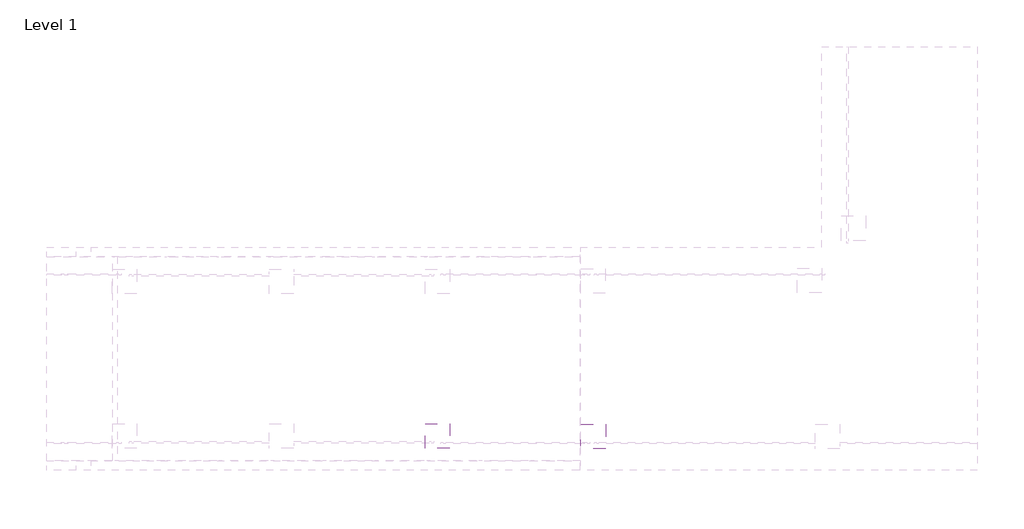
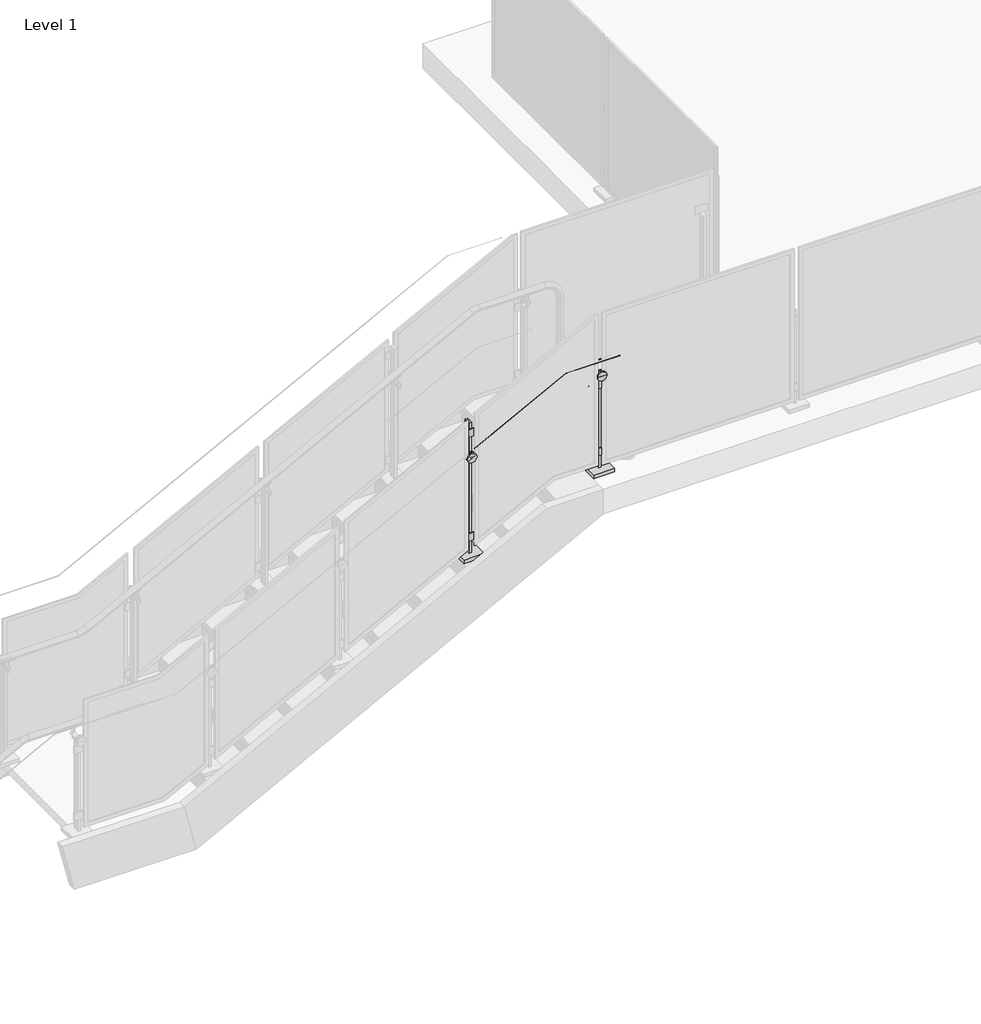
# One storey, part 12 of 28: 1 proxy, 1 railing.
"""IFC4 building model written with IfcOpenShell, lengths in millimetres."""

from ifc_helpers import new_model, si_unit, point, frame, frame_2d, origin, place, context, project, spatial, polyline, circle_curve, ellipse_curve, trimmed, segment, composite_curve, outline, extrude, transform, mapped, element, save
from ifc_brep_helpers import plane_surface, cylinder_surface, advanced_brep
from components import building_element_proxy_0a0706d1

model = new_model("IFC4")

# Units and contexts
model_context = context("Model", 3, world=origin())
ifc_project = project(units=[si_unit("LENGTHUNIT", "METRE", prefix="MILLI")], contexts=[model_context])

# Site, building, storey
site = spatial("IfcSite", under=ifc_project)
building = spatial("IfcBuilding", under=site)
storey = spatial("IfcBuildingStorey", under=building, Name="Level 1", Elevation=0.0)

# Proxy
placement = place(None, origin())
building_element_proxy_shape = building_element_proxy_0a0706d1(model_context)
element("IfcBuildingElementProxy", 1, Name="Baluster-End-Post-VIVA-STRUC-Top Mount-Stair : ANCHORED TO CONCRETE_TOP MOUNT STRUC_STAIR", ObjectType="Baluster-End-Post-VIVA-STRUC-Top Mount-Stair : ANCHORED TO CONCRETE_TOP MOUNT STRUC_STAIR", at=placement, inside=storey, context=model_context, shape_type="MappedRepresentation", body=[
    mapped(building_element_proxy_shape, transform((-12280.6217998, -18323.8190387, 3556.635), x_axis=(1.0, 0.0, 0.0), y_axis=(0.0, 1.0, 0.0), z_axis=(0.0, 0.0, 1.0))),
])

# Railing
element("IfcRailing", 2, ObjectType="Metal-Panel-VIVA-STRUC-Slab-Top-Anchor-Stairs-Landing-Upper", at=placement, inside=storey, context=model_context, shape_type="SolidModel", body=[
    advanced_brep(
    [(-13220.4217998, -18324.0730387, 3250.0824994), (-13220.4217998, -18323.5650387, 3250.0824994), (-12629.8192861, -18324.0730387, 3556.889), (-12629.8192861, -18323.5650387, 3556.889), (-12280.6217998, -18324.0730387, 3556.889), (-12280.6217998, -18323.5650387, 3556.889)],
    [
        (0, 1, ellipse_curve(frame((-13220.4217998, -18323.8190387, 3250.0824994), z_axis=(-1.0, 0.0, 0.0), x_axis=(0.0, 0.0, -1.0)), 0.2862277, 0.254)),
        (1, 0, ellipse_curve(frame((-13220.4217998, -18323.8190387, 3250.0824994), z_axis=(-1.0, 0.0, 0.0), x_axis=(0.0, 0.0, -1.0)), 0.2862277, 0.254)),
        (0, 2),
        (2, 3, ellipse_curve(frame((-12629.8192861, -18323.8190387, 3556.889), z_axis=(-0.9714436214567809, 0.0, -0.23727050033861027), x_axis=(0.23727050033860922, 0.0, -0.9714436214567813)), 0.2614665, 0.254)),
        (3, 1),
        (3, 2, ellipse_curve(frame((-12629.8192861, -18323.8190387, 3556.889), z_axis=(-0.9714436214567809, 0.0, -0.23727050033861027), x_axis=(0.23727050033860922, 0.0, -0.9714436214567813)), 0.2614665, 0.254)),
        (4, 5, circle_curve(frame((-12280.6217998, -18323.8190387, 3556.889), z_axis=(1.0, 0.0, 0.0), x_axis=(0.0, 1.0, 0.0)), 0.254)),
        (5, 4, circle_curve(frame((-12280.6217998, -18323.8190387, 3556.889), z_axis=(1.0, 0.0, 0.0), x_axis=(0.0, 1.0, 0.0)), 0.254)),
        (2, 4),
        (5, 3),
    ],
    [
        plane_surface(frame((-13220.4217998, -18323.8190387, 3250.3687271), z_axis=(-1.0, 0.0, 0.0), x_axis=(0.0, 1.0, 0.0))),
        cylinder_surface(frame((-13220.3047084, -18323.8190387, 3250.1433261), z_axis=(-0.8874054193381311, 0.0, -0.460989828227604), x_axis=(0.0, 1.0, 0.0)), 0.254),
        plane_surface(frame((-12280.6217998, -18323.8190387, 3557.143), z_axis=(1.0, 0.0, 0.0), x_axis=(0.0, 1.0, 0.0))),
        cylinder_surface(frame((-12629.8813244, -18323.8190387, 3556.889), z_axis=(-1.0, 0.0, 0.0), x_axis=(0.0, 1.0, 0.0)), 0.254),
    ],
    [
        (0, [[1, 2]]),
        (1, [[-1, 3, 4, 5]]),
        (1, [[-2, -5, 6, -3]]),
        (2, [[7, 8]]),
        (3, [[-4, 9, -8, 10]]),
        (3, [[-6, -10, -7, -9]]),
    ],
),
    advanced_brep(
    [(-13220.4217998, -18664.9554387, 3667.7622867), (-13220.4217998, -18663.9554387, 3667.7622867), (-12629.7592018, -18664.9554387, 3974.6), (-12629.7592018, -18663.9554387, 3974.6), (-12280.6217998, -18664.9554387, 3974.6), (-12280.6217998, -18663.9554387, 3974.6)],
    [
        (0, 1, ellipse_curve(frame((-13220.4217998, -18664.4554387, 3667.7622867), z_axis=(-1.0, 0.0, 0.0), x_axis=(0.0, 0.0, -1.0)), 0.5634403, 0.5)),
        (1, 0, ellipse_curve(frame((-13220.4217998, -18664.4554387, 3667.7622867), z_axis=(-1.0, 0.0, 0.0), x_axis=(0.0, 0.0, -1.0)), 0.5634403, 0.5)),
        (0, 2),
        (2, 3, ellipse_curve(frame((-12629.7592018, -18664.4554387, 3974.6), z_axis=(-0.9714436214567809, 0.0, -0.23727050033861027), x_axis=(0.23727050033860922, 0.0, -0.9714436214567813)), 0.5146979, 0.5)),
        (3, 1),
        (3, 2, ellipse_curve(frame((-12629.7592018, -18664.4554387, 3974.6), z_axis=(-0.9714436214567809, 0.0, -0.23727050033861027), x_axis=(0.23727050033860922, 0.0, -0.9714436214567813)), 0.5146979, 0.5)),
        (4, 5, circle_curve(frame((-12280.6217998, -18664.4554387, 3974.6), z_axis=(1.0, 0.0, 0.0), x_axis=(0.0, 1.0, 0.0)), 0.5)),
        (5, 4, circle_curve(frame((-12280.6217998, -18664.4554387, 3974.6), z_axis=(1.0, 0.0, 0.0), x_axis=(0.0, 1.0, 0.0)), 0.5)),
        (2, 4),
        (5, 3),
    ],
    [
        plane_surface(frame((-13220.4217998, -18664.4554387, 3668.3257271), z_axis=(-1.0, 0.0, 0.0), x_axis=(0.0, 1.0, 0.0))),
        cylinder_surface(frame((-13220.1913049, -18664.4554387, 3667.8820244), z_axis=(-0.8874054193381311, 0.0, -0.460989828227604), x_axis=(0.0, 1.0, 0.0)), 0.5),
        plane_surface(frame((-12280.6217998, -18664.4554387, 3975.1), z_axis=(1.0, 0.0, 0.0), x_axis=(0.0, 1.0, 0.0))),
        cylinder_surface(frame((-12629.8813244, -18664.4554387, 3974.6), z_axis=(-1.0, 0.0, 0.0), x_axis=(0.0, 1.0, 0.0)), 0.5),
    ],
    [
        (0, [[1, 2]]),
        (1, [[-1, 3, 4, 5]]),
        (1, [[-2, -5, 6, -3]]),
        (2, [[7, 8]]),
        (3, [[-4, 9, -8, 10]]),
        (3, [[-6, -10, -7, -9]]),
    ],
),
    extrude(outline(polyline([(-13156.9225191, -18439.3382387), (-13080.7210806, -18439.3382387), (-13080.7210806, -18446.4502387), (-13156.9225191, -18446.4502387), (-13156.9225191, -18439.3382387)])), frame((0.0, 0.0, 3581.6902857), z_axis=(0.0, 0.0, 1.0), x_axis=(1.0, 0.0, 0.0)), (0.0, 0.0, 1.0), 50.8),
    extrude(outline(polyline([(-13156.9225191, -18439.3382387), (-13080.7210806, -18439.3382387), (-13080.7210806, -18446.4502387), (-13156.9225191, -18446.4502387), (-13156.9225191, -18439.3382387)])), frame((0.0, 0.0, 2870.4902857), z_axis=(0.0, 0.0, 1.0), x_axis=(1.0, 0.0, 0.0)), (0.0, 0.0, 1.0), 50.8),
    extrude(outline(composite_curve([segment(polyline([(2.9997401, 0.0), (0.0, 0.0)]), True, "CONTINUOUS"), segment(trimmed(circle_curve(frame_2d((-19.0451471, 0.0)), 19.0451471), [point((0.0, 0.0))], [point((-23.6280664, 18.4855208))], True, "CARTESIAN"), True, "CONTINUOUS"), segment(polyline([(-23.6280664, 18.4855208), (-24.3499072, 21.3971159)]), True, "CONTINUOUS"), segment(trimmed(circle_curve(frame_2d((-19.0451471, 0.0)), 22.0448871), [point((-24.3499072, 21.3971159))], [point((2.9997401, 0.0))], False, "CARTESIAN"), True, "CONTINUOUS")], self_intersect=False)), frame((-13181.3095103, -18385.2502387, 3479.4567447), z_axis=(0.887405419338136, 0.0, 0.4609898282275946), x_axis=(0.2840545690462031, -0.7876022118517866, -0.5468050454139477)), (0.0, 0.0, 1.0), 79.1184357),
    advanced_brep(
    [(-13106.4246222, -18370.2502387, 3421.1169809), (-13106.4246222, -18377.3939887, 3421.1169809), (-13106.4246222, -18363.1064887, 3421.1169809), (-13142.2838684, -18377.3939887, 3490.14603), (-13142.2838684, -18370.2502387, 3490.14603), (-13142.2838684, -18363.1064887, 3490.14603)],
    [
        (0, 1),
        (1, 2, circle_curve(frame((-13106.4246222, -18370.2502387, 3421.1169809), z_axis=(0.4609898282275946, 0.0, -0.887405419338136), x_axis=(0.0, 1.0, 0.0)), 7.14375)),
        (2, 0),
        (3, 4),
        (4, 5),
        (5, 3, circle_curve(frame((-13142.2838684, -18370.2502387, 3490.14603), z_axis=(-0.4609898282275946, 0.0, 0.887405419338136), x_axis=(0.0, 1.0, 0.0)), 7.14375)),
        (2, 1, circle_curve(frame((-13106.4246222, -18370.2502387, 3421.1169809), z_axis=(0.4609898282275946, 0.0, -0.887405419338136), x_axis=(0.0, 1.0, 0.0)), 7.14375)),
        (3, 5, circle_curve(frame((-13142.2838684, -18370.2502387, 3490.14603), z_axis=(-0.4609898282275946, 0.0, 0.887405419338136), x_axis=(0.0, 1.0, 0.0)), 7.14375)),
        (1, 3),
        (5, 2),
    ],
    [
        plane_surface(frame((-13106.4246222, -18370.2502387, 3421.1169809), z_axis=(0.4609898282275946, 0.0, -0.887405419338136), x_axis=(0.0, 1.0, 0.0))),
        plane_surface(frame((-13142.2838684, -18370.2502387, 3490.14603), z_axis=(-0.4609898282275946, 0.0, 0.887405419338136), x_axis=(0.0, 1.0, 0.0))),
        cylinder_surface(frame((-12989.4704223, -18370.2502387, 3195.9801462), z_axis=(0.4609898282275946, 0.0, -0.887405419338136), x_axis=(0.0, 1.0, 0.0)), 7.14375),
    ],
    [
        (0, [[1, 2, 3]]),
        (1, [[4, 5, 6]]),
        (0, [[-3, 7, -1]]),
        (1, [[-5, -4, 8]]),
        (2, [[9, -6, 10, -2]]),
        (2, [[-10, -8, -9, -7]]),
    ],
),
    advanced_brep(
    [(-13145.5881658, -18455.9752387, 3431.0769422), (-13124.4568242, -18455.9752387, 3442.0542624), (-13113.1867754, -18455.9752387, 3447.9088333), (-13092.0554339, -18455.9752387, 3458.8861535), (-13145.5881658, -18463.9127387, 3431.0769422), (-13092.0554339, -18463.9127387, 3458.8861535), (-13145.5881658, -18438.5127387, 3431.0769422), (-13130.0918486, -18438.5127387, 3439.126977), (-13107.551751, -18438.5127387, 3450.8361187), (-13092.0554339, -18438.5127387, 3458.8861535), (-13145.5881658, -18446.4502387, 3431.0769422), (-13092.0554339, -18446.4502387, 3458.8861535), (-13118.8217998, -18463.9127387, 3444.9815479), (-13130.0918486, -18359.1377387, 3439.126977), (-13118.8217998, -18359.1377387, 3444.9815479), (-13107.551751, -18359.1377387, 3450.8361187), (-13124.4568242, -18446.4502387, 3442.0542624), (-13113.1867754, -18446.4502387, 3447.9088333)],
    [
        (0, 1),
        (1, 2, circle_curve(frame((-13118.8217998, -18455.9752387, 3444.9815479), z_axis=(0.0, -1.0, 0.0), x_axis=(0.8874054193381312, 0.0, 0.4609898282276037)), 6.35)),
        (2, 3),
        (3, 0, circle_curve(frame((-13118.8217998, -18455.9752387, 3444.9815479), z_axis=(0.0, 1.0, 0.0), x_axis=(0.8874054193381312, 0.0, 0.4609898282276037)), 30.1625)),
        (4, 0),
        (3, 5),
        (5, 4, circle_curve(frame((-13118.8217998, -18463.9127387, 3444.9815479), z_axis=(0.0, 1.0, 0.0), x_axis=(0.8874054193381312, 0.0, 0.4609898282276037)), 30.1625)),
        (6, 7),
        (7, 8, circle_curve(frame((-13118.8217998, -18438.5127387, 3444.9815479), z_axis=(0.0, -1.0, 0.0), x_axis=(0.8874054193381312, 0.0, 0.4609898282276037)), 12.7)),
        (8, 9),
        (9, 6, circle_curve(frame((-13118.8217998, -18438.5127387, 3444.9815479), z_axis=(0.0, 1.0, 0.0), x_axis=(0.8874054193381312, 0.0, 0.4609898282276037)), 30.1625)),
        (10, 6),
        (9, 11),
        (11, 10, circle_curve(frame((-13118.8217998, -18446.4502387, 3444.9815479), z_axis=(0.0, 1.0, 0.0), x_axis=(0.8874054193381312, 0.0, 0.4609898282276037)), 30.1625)),
        (3, 0, circle_curve(frame((-13118.8217998, -18455.9752387, 3444.9815479), z_axis=(0.0, -1.0, 0.0), x_axis=(0.8874054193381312, 0.0, 0.4609898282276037)), 30.1625)),
        (4, 5, circle_curve(frame((-13118.8217998, -18463.9127387, 3444.9815479), z_axis=(0.0, 1.0, 0.0), x_axis=(0.8874054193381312, 0.0, 0.4609898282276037)), 30.1625)),
        (12, 4),
        (5, 12),
        (13, 14),
        (14, 15),
        (15, 13, circle_curve(frame((-13118.8217998, -18359.1377387, 3444.9815479), z_axis=(0.0, 1.0, 0.0), x_axis=(0.8874054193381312, 0.0, 0.4609898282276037)), 12.7)),
        (13, 15, circle_curve(frame((-13118.8217998, -18359.1377387, 3444.9815479), z_axis=(0.0, 1.0, 0.0), x_axis=(0.8874054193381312, 0.0, 0.4609898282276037)), 12.7)),
        (7, 13),
        (15, 8),
        (7, 8, circle_curve(frame((-13118.8217998, -18438.5127387, 3444.9815479), z_axis=(0.0, 1.0, 0.0), x_axis=(0.8874054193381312, 0.0, 0.4609898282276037)), 12.7)),
        (6, 9, circle_curve(frame((-13118.8217998, -18438.5127387, 3444.9815479), z_axis=(0.0, 1.0, 0.0), x_axis=(0.8874054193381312, 0.0, 0.4609898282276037)), 30.1625)),
        (10, 11, circle_curve(frame((-13118.8217998, -18446.4502387, 3444.9815479), z_axis=(0.0, 1.0, 0.0), x_axis=(0.8874054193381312, 0.0, 0.4609898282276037)), 30.1625)),
        (16, 10),
        (11, 17),
        (17, 16, circle_curve(frame((-13118.8217998, -18446.4502387, 3444.9815479), z_axis=(0.0, 1.0, 0.0), x_axis=(0.8874054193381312, 0.0, 0.4609898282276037)), 6.35)),
        (16, 17, circle_curve(frame((-13118.8217998, -18446.4502387, 3444.9815479), z_axis=(0.0, 1.0, 0.0), x_axis=(0.8874054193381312, 0.0, 0.4609898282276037)), 6.35)),
        (1, 16),
        (17, 2),
        (1, 2, circle_curve(frame((-13118.8217998, -18455.9752387, 3444.9815479), z_axis=(0.0, 1.0, 0.0), x_axis=(0.8874054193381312, 0.0, 0.4609898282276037)), 6.35)),
    ],
    [
        plane_surface(frame((-13118.8217998, -18455.9752387, 3444.9815479), z_axis=(0.0, 1.0, 0.0), x_axis=(0.8874054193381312, 0.0, 0.4609898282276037))),
        cylinder_surface(frame((-13118.8217998, -19970.4502387, 3444.9815479), z_axis=(0.0, -1.0, 0.0), x_axis=(0.8874054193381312, 0.0, 0.4609898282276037)), 30.1625),
        plane_surface(frame((-13118.8217998, -18438.5127387, 3444.9815479), z_axis=(0.0, 1.0, 0.0), x_axis=(0.8874054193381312, 0.0, 0.4609898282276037))),
        plane_surface(frame((-13118.8217998, -18463.9127387, 3444.9815479), z_axis=(0.0, -1.0, 0.0), x_axis=(0.8874054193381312, 0.0, 0.4609898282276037))),
        plane_surface(frame((-13118.8217998, -18359.1377387, 3444.9815479), z_axis=(0.0, 1.0, 0.0), x_axis=(0.8874054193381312, 0.0, 0.4609898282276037))),
        cylinder_surface(frame((-13118.8217998, -19970.4502387, 3444.9815479), z_axis=(0.0, -1.0, 0.0), x_axis=(0.8874054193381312, 0.0, 0.4609898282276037)), 12.7),
        plane_surface(frame((-13118.8217998, -18446.4502387, 3444.9815479), z_axis=(0.0, -1.0, 0.0), x_axis=(0.8874054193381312, 0.0, 0.4609898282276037))),
        cylinder_surface(frame((-13118.8217998, -19970.4502387, 3444.9815479), z_axis=(0.0, -1.0, 0.0), x_axis=(0.8874054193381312, 0.0, 0.4609898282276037)), 6.35),
    ],
    [
        (0, [[1, 2, 3, 4]]),
        (1, [[5, -4, 6, 7]]),
        (2, [[8, 9, 10, 11]]),
        (1, [[12, -11, 13, 14]]),
        (1, [[-6, 15, -5, 16]]),
        (3, [[17, -7, 18]]),
        (3, [[-18, -16, -17]]),
        (4, [[19, 20, 21]]),
        (4, [[-20, -19, 22]]),
        (5, [[23, -21, 24, -9]]),
        (5, [[-24, -22, -23, 25]]),
        (2, [[-10, -25, -8, 26]]),
        (1, [[-13, -26, -12, 27]]),
        (6, [[28, -14, 29, 30]]),
        (6, [[-29, -27, -28, 31]]),
        (7, [[32, -30, 33, -2]]),
        (7, [[-33, -31, -32, 34]]),
        (0, [[-3, -34, -1, -15]]),
    ],
),
    extrude(outline(polyline([(-13184.7093998, -18351.2256387), (-13052.9341998, -18351.2256387), (-13052.9341998, -18483.0008387), (-13184.7093998, -18483.0008387), (-13184.7093998, -18351.2256387)])), frame((0.0, 0.0, 2757.7142857), z_axis=(0.0, 0.0, 1.0), x_axis=(1.0, 0.0, 0.0)), (0.0, 0.0, 1.0), 25.4),
    extrude(outline(polyline([(-13126.7613915, -18394.8882387), (-13110.8822082, -18394.8882387), (-13110.8822082, -18439.3382387), (-13126.7613915, -18439.3382387), (-13126.7613915, -18394.8882387)])), frame((0.0, 0.0, 2757.7142857), z_axis=(0.0, 0.0, 1.0), x_axis=(1.0, 0.0, 0.0)), (0.0, 0.0, 1.0), 914.4),
])

save(model, "model.ifc")
